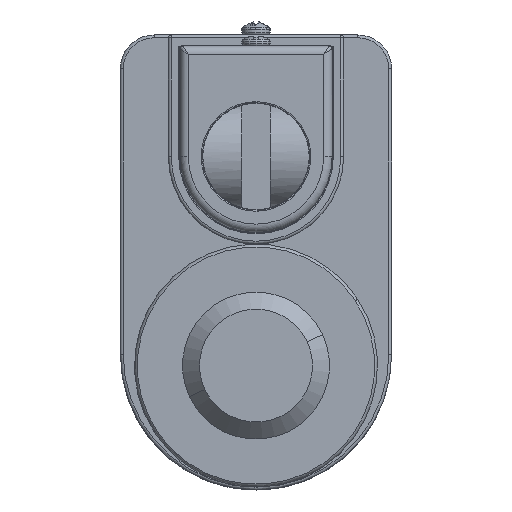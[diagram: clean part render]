
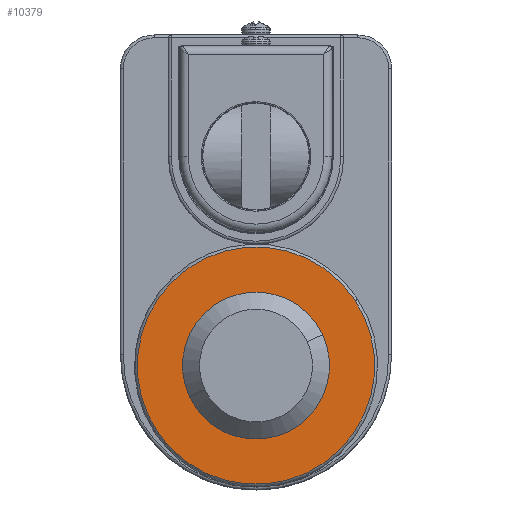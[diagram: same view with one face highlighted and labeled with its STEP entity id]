
A CAD part, left-side view. The second image highlights one B-rep face of the part: STEP entity #10379.
In plain terms, the highlighted planar face has unit normal (-1, 0, 0).
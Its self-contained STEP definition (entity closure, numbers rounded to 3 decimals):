
#2816 = CARTESIAN_POINT ( 'NONE',  ( -82., 11.782, -42.494 ) ) ;
#2817 = DIRECTION ( 'NONE',  ( 0., 0.906, -0.423 ) ) ;
#2818 = DIRECTION ( 'NONE',  ( 1., 0., 0. ) ) ;
#2819 = CARTESIAN_POINT ( 'NONE',  ( -82., 0., -37. ) ) ;
#2820 = AXIS2_PLACEMENT_3D ( 'NONE', #2819, #2818, #2817 ) ;
#2821 = CIRCLE ( 'NONE', #2820, 13. ) ;
#2822 = CARTESIAN_POINT ( 'NONE',  ( -82., -11.782, -31.506 ) ) ;
#2861 = DIRECTION ( 'NONE',  ( 1., 0., 0. ) ) ;
#2862 = CARTESIAN_POINT ( 'NONE',  ( -82., 0., -37. ) ) ;
#2863 = AXIS2_PLACEMENT_3D ( 'NONE', #2862, #2861, #2912 ) ;
#2869 = CIRCLE ( 'NONE', #2863, 21. ) ;
#2896 = CARTESIAN_POINT ( 'NONE',  ( -82., -19.032, -28.125 ) ) ;
#2897 = DIRECTION ( 'NONE',  ( 0., 0.906, -0.423 ) ) ;
#2898 = DIRECTION ( 'NONE',  ( 1., 0., 0. ) ) ;
#2899 = CARTESIAN_POINT ( 'NONE',  ( -82., 0., -37. ) ) ;
#2900 = AXIS2_PLACEMENT_3D ( 'NONE', #2899, #2898, #2897 ) ;
#2901 = CIRCLE ( 'NONE', #2900, 21. ) ;
#2902 = CARTESIAN_POINT ( 'NONE',  ( -82., 19.032, -45.875 ) ) ;
#2912 = DIRECTION ( 'NONE',  ( 0., 0.906, -0.423 ) ) ;
#3010 = PLANE ( 'NONE',  #3132 ) ;
#3011 = FACE_OUTER_BOUND ( 'NONE', #10421, .T. ) ;
#3012 = FACE_BOUND ( 'NONE', #10433, .T. ) ;
#3083 = CIRCLE ( 'NONE', #3154, 13. ) ;
#3129 = DIRECTION ( 'NONE',  ( 0., 0.906, -0.423 ) ) ;
#3130 = DIRECTION ( 'NONE',  ( 1., 0., 0. ) ) ;
#3131 = CARTESIAN_POINT ( 'NONE',  ( -82., 0., -37. ) ) ;
#3132 = AXIS2_PLACEMENT_3D ( 'NONE', #3131, #3130, #3129 ) ;
#3151 = DIRECTION ( 'NONE',  ( 0., 0.906, -0.423 ) ) ;
#3152 = DIRECTION ( 'NONE',  ( 1., 0., 0. ) ) ;
#3153 = CARTESIAN_POINT ( 'NONE',  ( -82., 0., -37. ) ) ;
#3154 = AXIS2_PLACEMENT_3D ( 'NONE', #3153, #3152, #3151 ) ;
#10228 = VERTEX_POINT ( 'NONE', #2822 ) ;
#10230 = EDGE_CURVE ( 'NONE', #10231, #10228, #2821, .T. ) ;
#10231 = VERTEX_POINT ( 'NONE', #2816 ) ;
#10258 = EDGE_CURVE ( 'NONE', #10265, #10262, #2869, .T. ) ;
#10262 = VERTEX_POINT ( 'NONE', #2902 ) ;
#10264 = EDGE_CURVE ( 'NONE', #10262, #10265, #2901, .T. ) ;
#10265 = VERTEX_POINT ( 'NONE', #2896 ) ;
#10299 = EDGE_CURVE ( 'NONE', #10228, #10231, #3083, .T. ) ;
#10370 = ORIENTED_EDGE ( 'NONE', *, *, #10264, .F. ) ;
#10379 = ADVANCED_FACE ( 'NONE', ( #3012, #3011 ), #3010, .F. ) ;
#10419 = ORIENTED_EDGE ( 'NONE', *, *, #10230, .T. ) ;
#10420 = ORIENTED_EDGE ( 'NONE', *, *, #10299, .T. ) ;
#10421 = EDGE_LOOP ( 'NONE', ( #10518, #10370 ) ) ;
#10433 = EDGE_LOOP ( 'NONE', ( #10419, #10420 ) ) ;
#10518 = ORIENTED_EDGE ( 'NONE', *, *, #10258, .F. ) ;
